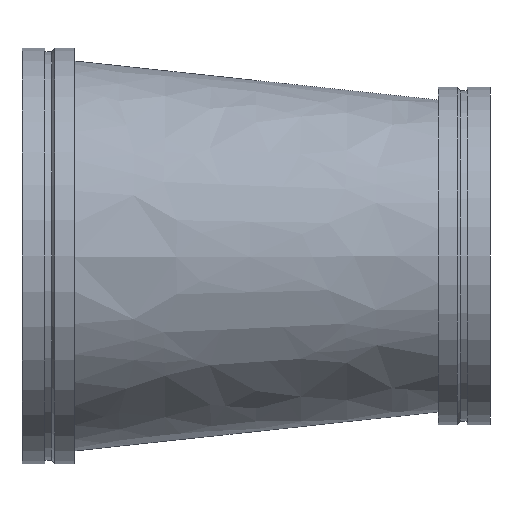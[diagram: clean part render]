
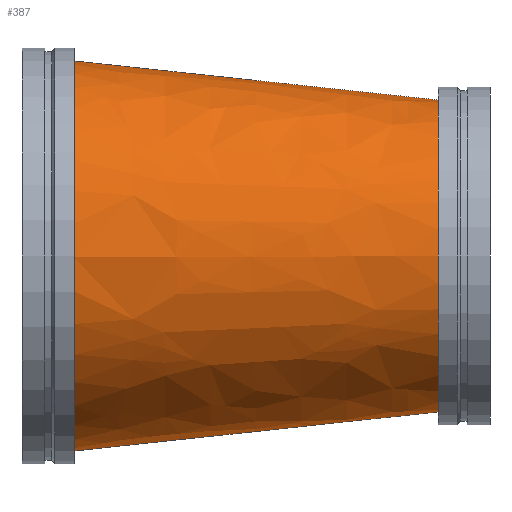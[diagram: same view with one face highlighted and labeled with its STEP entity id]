
A CAD part, front view. The second image highlights one B-rep face of the part: STEP entity #387.
In plain terms, the highlighted free-form (B-spline) face has degree [1, 2] with [2, 9] control points.
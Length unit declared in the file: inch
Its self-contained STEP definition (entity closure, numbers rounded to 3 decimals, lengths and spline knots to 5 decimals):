
#46=B_SPLINE_CURVE_WITH_KNOTS('',1,(#747,#748),.UNSPECIFIED.,.F.,.F.,(2,
2),(-1.88881,-0.00119),.UNSPECIFIED.);
#48=(
BOUNDED_SURFACE()
B_SPLINE_SURFACE(1,2,((#729,#730,#731,#732,#733,#734,#735,#736,#737),(#738,
#739,#740,#741,#742,#743,#744,#745,#746)),.UNSPECIFIED.,.F.,.T.,.F.)
B_SPLINE_SURFACE_WITH_KNOTS((2,2),(3,2,2,2,3),(-0.10594,1.97261),
(-3.14159,-1.5708,0.,1.5708,3.14159),
 .UNSPECIFIED.)
GEOMETRIC_REPRESENTATION_ITEM()
RATIONAL_B_SPLINE_SURFACE(((1.,0.707,1.,0.707,1.,
0.707,1.,0.707,1.),(1.,0.707,1.,0.707,
1.,0.707,1.,0.707,1.)))
REPRESENTATION_ITEM('')
SURFACE()
);
#98=FACE_OUTER_BOUND('',#120,.T.);
#120=EDGE_LOOP('',(#321,#322,#323,#324,#325,#326));
#129=CIRCLE('',#415,12.);
#130=CIRCLE('',#416,12.);
#153=CIRCLE('',#450,15.);
#154=CIRCLE('',#451,15.);
#166=VERTEX_POINT('',#628);
#167=VERTEX_POINT('',#629);
#190=VERTEX_POINT('',#695);
#191=VERTEX_POINT('',#696);
#203=EDGE_CURVE('',#166,#167,#129,.T.);
#204=EDGE_CURVE('',#167,#166,#130,.T.);
#235=EDGE_CURVE('',#190,#191,#153,.T.);
#236=EDGE_CURVE('',#191,#190,#154,.T.);
#243=EDGE_CURVE('',#167,#191,#46,.T.);
#321=ORIENTED_EDGE('',*,*,#203,.T.);
#322=ORIENTED_EDGE('',*,*,#243,.T.);
#323=ORIENTED_EDGE('',*,*,#236,.T.);
#324=ORIENTED_EDGE('',*,*,#235,.T.);
#325=ORIENTED_EDGE('',*,*,#243,.F.);
#326=ORIENTED_EDGE('',*,*,#204,.T.);
#387=ADVANCED_FACE('',(#98),#48,.F.);
#415=AXIS2_PLACEMENT_3D('',#630,#486,#487);
#416=AXIS2_PLACEMENT_3D('',#631,#488,#489);
#450=AXIS2_PLACEMENT_3D('',#697,#564,#565);
#451=AXIS2_PLACEMENT_3D('',#698,#566,#567);
#486=DIRECTION('center_axis',(-1.,0.,0.));
#487=DIRECTION('ref_axis',(0.,-1.,0.));
#488=DIRECTION('center_axis',(-1.,0.,0.));
#489=DIRECTION('ref_axis',(0.,-1.,0.));
#564=DIRECTION('center_axis',(1.,0.,0.));
#565=DIRECTION('ref_axis',(0.,1.,0.));
#566=DIRECTION('center_axis',(1.,0.,0.));
#567=DIRECTION('ref_axis',(0.,1.,0.));
#628=CARTESIAN_POINT('',(32.,-15.,0.));
#629=CARTESIAN_POINT('',(32.,-3.13468,11.99924));
#630=CARTESIAN_POINT('Origin',(32.,-3.,0.));
#631=CARTESIAN_POINT('Origin',(32.,-3.,0.));
#695=CARTESIAN_POINT('',(4.,15.,0.));
#696=CARTESIAN_POINT('',(4.,-0.16835,14.99906));
#697=CARTESIAN_POINT('Origin',(4.,0.,0.));
#698=CARTESIAN_POINT('Origin',(4.,0.,0.));
#729=CARTESIAN_POINT('Ctrl Pts',(2.41089,0.,
15.16931));
#730=CARTESIAN_POINT('Ctrl Pts',(0.82179,-15.,15.16931));
#731=CARTESIAN_POINT('Ctrl Pts',(0.82179,-15.,0.));
#732=CARTESIAN_POINT('Ctrl Pts',(0.82179,-15.,-15.16931));
#733=CARTESIAN_POINT('Ctrl Pts',(2.41089,0.,
-15.16931));
#734=CARTESIAN_POINT('Ctrl Pts',(4.,15.,-15.16931));
#735=CARTESIAN_POINT('Ctrl Pts',(4.,15.,0.));
#736=CARTESIAN_POINT('Ctrl Pts',(4.,15.,15.16931));
#737=CARTESIAN_POINT('Ctrl Pts',(2.41089,0.,
15.16931));
#738=CARTESIAN_POINT('Ctrl Pts',(33.24306,-3.26637,11.86607));
#739=CARTESIAN_POINT('Ctrl Pts',(32.,-15.,11.86607));
#740=CARTESIAN_POINT('Ctrl Pts',(32.,-15.,0.));
#741=CARTESIAN_POINT('Ctrl Pts',(32.,-15.,-11.86607));
#742=CARTESIAN_POINT('Ctrl Pts',(33.24306,-3.26637,-11.86607));
#743=CARTESIAN_POINT('Ctrl Pts',(34.48613,8.46726,-11.86607));
#744=CARTESIAN_POINT('Ctrl Pts',(34.48613,8.46726,0.));
#745=CARTESIAN_POINT('Ctrl Pts',(34.48613,8.46726,11.86607));
#746=CARTESIAN_POINT('Ctrl Pts',(33.24306,-3.26637,11.86607));
#747=CARTESIAN_POINT('Ctrl Pts',(32.,-3.13468,11.99924));
#748=CARTESIAN_POINT('Ctrl Pts',(4.,-0.16835,14.99906));
